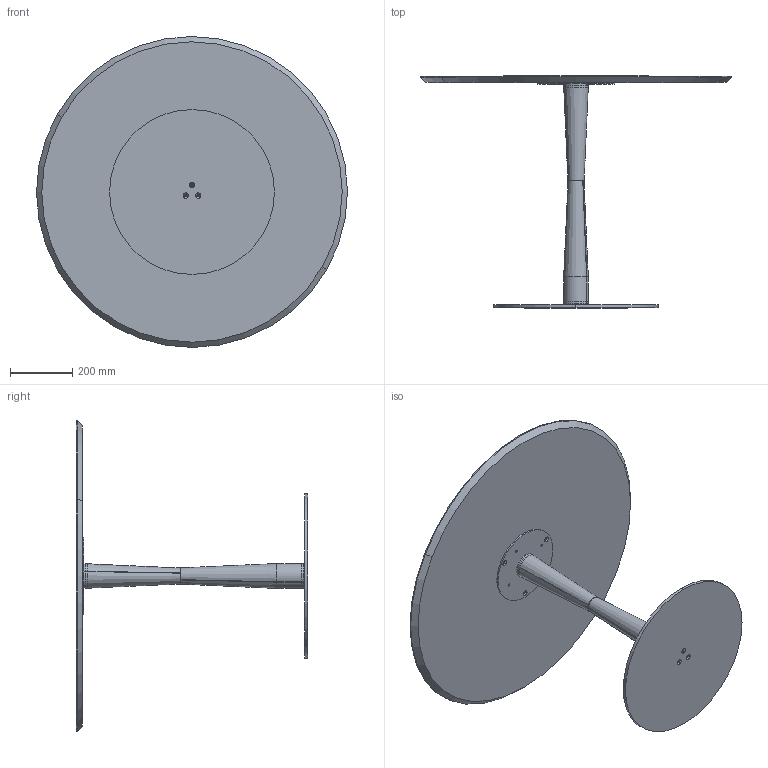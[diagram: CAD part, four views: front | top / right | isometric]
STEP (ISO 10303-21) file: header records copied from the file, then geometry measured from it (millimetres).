
FILE_DESCRIPTION (( 'STEP AP203' ), '1' );
FILE_NAME ('FI30W.STEP', '2024-08-08T07:59:57', ( '' ), ( '' ), 'SwSTEP 2.0', 'SolidWorks 2022', '' );
FILE_SCHEMA (( 'CONFIG_CONTROL_DESIGN' ));
Length unit declared in the file: millimetre
Products named in the file (8): W1XCMXX-00-Piani Rotondi legno_D.1000 SP.20cm; FI30W; FIL000000COL-01-FILU'' COLONNA CENTRALE; FIL000000_02-00-Tubo Conificato inferiore_tagliato; FIL000000_03-00-Piastra per Tubi conificati FILU; CBS000000BAS-00-BISTRO PIASTRA INFERIORE_D.530; CBS200000PST-00-CONTROPIASTRA PER PIASTRA D.25cm GREZZO_250; FIL000000_01-00-Tubo Conificato superiore_tagliato
Assembly tree (8 placements, depth 3):
  FI30W
    CBS000000BAS-00-BISTRO PIASTRA INFERIORE_D.530
    CBS200000PST-00-CONTROPIASTRA PER PIASTRA D.25cm GREZZO_250
    FIL000000COL-01-FILU'' COLONNA CENTRALE
      FIL000000_02-00-Tubo Conificato inferiore_tagliato
      FIL000000_01-00-Tubo Conificato superiore_tagliato
      FIL000000_03-00-Piastra per Tubi conificati FILU  x2
    W1XCMXX-00-Piani Rotondi legno_D.1000 SP.20cm
Bounding box: 1000 x 745 x 1000 mm (x, y, z)
Volume: 18037734.2 mm3; surface area: 2478799.2 mm2
Topology: 7 solids, 7 shells, 120 faces, 278 edges, 168 vertices
Faces by surface type: cylinder 62, cone 44, plane 14
Entity records: 4052 total; most frequent: DIRECTION 638, CARTESIAN_POINT 520, ORIENTED_EDGE 492, AXIS2_PLACEMENT_3D 270, EDGE_CURVE 246, EDGE_LOOP 152, VERTEX_POINT 152, CIRCLE 148
